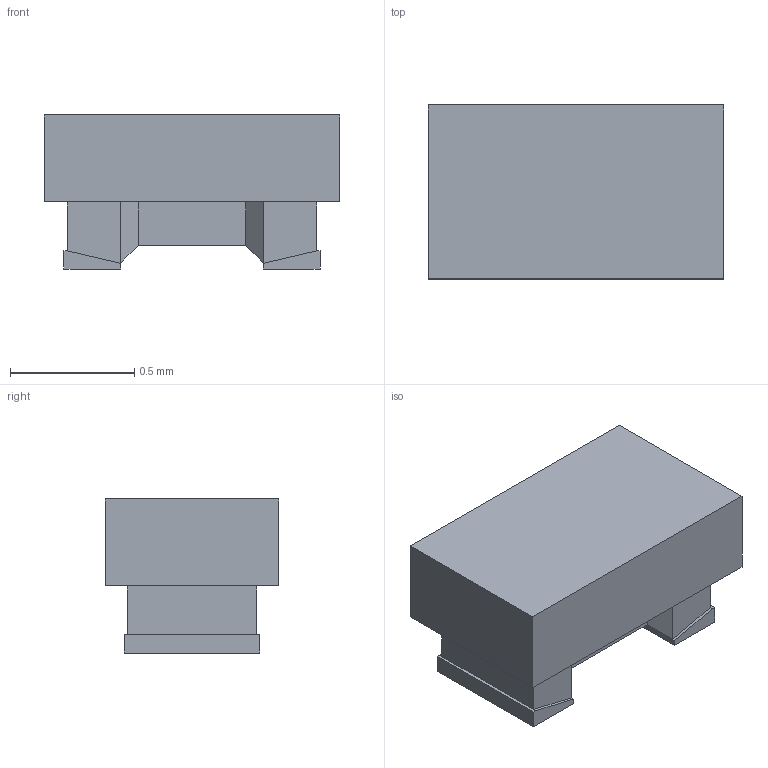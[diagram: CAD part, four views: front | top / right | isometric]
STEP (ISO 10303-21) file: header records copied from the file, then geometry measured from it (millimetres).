
FILE_DESCRIPTION(('STEP AP203'), '1');
FILE_NAME('KIK 1005 (0402)', '', ('UNSPECIFIED'), ('UNSPECIFIED'), 'ASCON STEP Converter 1.6', 'ASCON Math Kernel', '');
FILE_SCHEMA(('CONFIG_CONTROL_DESIGN'));
Length unit declared in the file: millimetre
Assembly tree (1 placements, depth 2):
  (unnamed)
    (unnamed)
Bounding box: 1.19 x 0.7 x 0.62 mm (x, y, z)
Volume: 0.4 mm3; surface area: 4 mm2
Topology: 2 solids, 2 shells, 56 faces, 145 edges, 94 vertices
Faces by surface type: plane 52, cylinder 4
Entity records: 2227 total; most frequent: CARTESIAN_POINT 297, ORIENTED_EDGE 290, DIRECTION 269, EDGE_CURVE 145, LINE 137, VECTOR 137, VERTEX_POINT 94, AXIS2_PLACEMENT_3D 66
